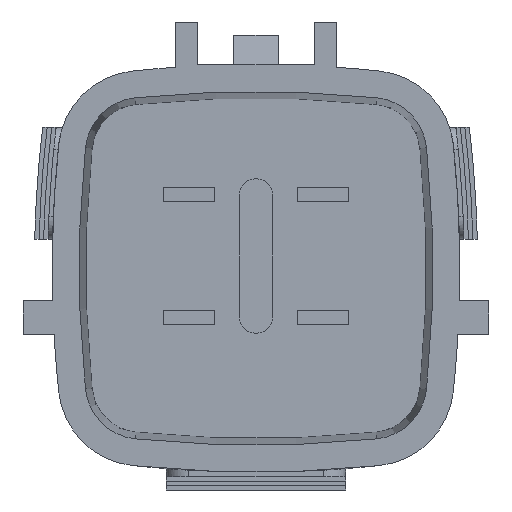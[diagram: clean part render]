
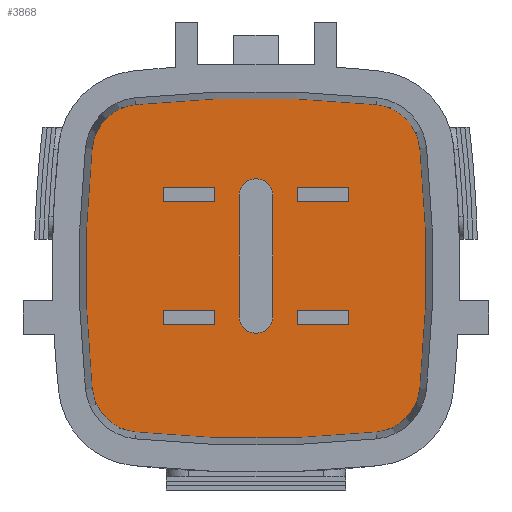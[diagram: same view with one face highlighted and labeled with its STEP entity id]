
A CAD part, left-side view. The second image highlights one B-rep face of the part: STEP entity #3868.
In plain terms, the highlighted planar face has unit normal (-1, 0, 0).
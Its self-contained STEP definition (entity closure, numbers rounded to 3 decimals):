
#3017=AXIS2_PLACEMENT_3D('Circle Axis2P3D',#3015,#3016,$) ;
#3048=AXIS2_PLACEMENT_3D('Circle Axis2P3D',#3046,#3047,$) ;
#3072=AXIS2_PLACEMENT_3D('Circle Axis2P3D',#3070,#3071,$) ;
#3096=AXIS2_PLACEMENT_3D('Circle Axis2P3D',#3094,#3095,$) ;
#3120=AXIS2_PLACEMENT_3D('Circle Axis2P3D',#3118,#3119,$) ;
#3144=AXIS2_PLACEMENT_3D('Circle Axis2P3D',#3142,#3143,$) ;
#3168=AXIS2_PLACEMENT_3D('Circle Axis2P3D',#3166,#3167,$) ;
#3192=AXIS2_PLACEMENT_3D('Circle Axis2P3D',#3190,#3191,$) ;
#3686=AXIS2_PLACEMENT_3D('Plane Axis2P3D',#3683,#3684,#3685) ;
#3700=AXIS2_PLACEMENT_3D('Circle Axis2P3D',#3698,#3699,$) ;
#3716=AXIS2_PLACEMENT_3D('Circle Axis2P3D',#3714,#3715,$) ;
#3015=CARTESIAN_POINT('Axis2P3D Location',(14.2,-5.131,5.131)) ;
#3019=CARTESIAN_POINT('Vertex',(14.2,-7.319,5.361)) ;
#3021=CARTESIAN_POINT('Vertex',(14.2,-5.361,7.319)) ;
#3046=CARTESIAN_POINT('Axis2P3D Location',(14.2,0.,-43.6)) ;
#3050=CARTESIAN_POINT('Vertex',(14.2,5.361,7.319)) ;
#3070=CARTESIAN_POINT('Axis2P3D Location',(14.2,5.131,5.131)) ;
#3074=CARTESIAN_POINT('Vertex',(14.2,7.319,5.361)) ;
#3094=CARTESIAN_POINT('Axis2P3D Location',(14.2,-43.6,0.)) ;
#3098=CARTESIAN_POINT('Vertex',(14.2,7.319,-5.361)) ;
#3118=CARTESIAN_POINT('Axis2P3D Location',(14.2,5.131,-5.131)) ;
#3122=CARTESIAN_POINT('Vertex',(14.2,5.361,-7.319)) ;
#3142=CARTESIAN_POINT('Axis2P3D Location',(14.2,0.,43.6)) ;
#3146=CARTESIAN_POINT('Vertex',(14.2,-5.361,-7.319)) ;
#3166=CARTESIAN_POINT('Axis2P3D Location',(14.2,-5.131,-5.131)) ;
#3170=CARTESIAN_POINT('Vertex',(14.2,-7.319,-5.361)) ;
#3190=CARTESIAN_POINT('Axis2P3D Location',(14.2,43.6,0.)) ;
#3683=CARTESIAN_POINT('Axis2P3D Location',(14.2,0.,0.)) ;
#3698=CARTESIAN_POINT('Axis2P3D Location',(14.2,0.,-2.15)) ;
#3702=CARTESIAN_POINT('Vertex',(14.2,-0.75,-2.15)) ;
#3704=CARTESIAN_POINT('Vertex',(14.2,0.75,-2.15)) ;
#3707=CARTESIAN_POINT('Line Origine',(14.2,0.75,0.55)) ;
#3711=CARTESIAN_POINT('Vertex',(14.2,0.75,3.25)) ;
#3714=CARTESIAN_POINT('Axis2P3D Location',(14.2,0.,3.25)) ;
#3718=CARTESIAN_POINT('Vertex',(14.2,-0.75,3.25)) ;
#3721=CARTESIAN_POINT('Line Origine',(14.2,-0.75,0.55)) ;
#3732=CARTESIAN_POINT('Line Origine',(14.2,1.85,-2.2)) ;
#3736=CARTESIAN_POINT('Vertex',(14.2,1.85,-2.52)) ;
#3738=CARTESIAN_POINT('Vertex',(14.2,1.85,-1.88)) ;
#3741=CARTESIAN_POINT('Line Origine',(14.2,3.,-2.52)) ;
#3745=CARTESIAN_POINT('Vertex',(14.2,4.15,-2.52)) ;
#3748=CARTESIAN_POINT('Line Origine',(14.2,4.15,-2.2)) ;
#3752=CARTESIAN_POINT('Vertex',(14.2,4.15,-1.88)) ;
#3755=CARTESIAN_POINT('Line Origine',(14.2,3.,-1.88)) ;
#3766=CARTESIAN_POINT('Line Origine',(14.2,1.85,3.3)) ;
#3770=CARTESIAN_POINT('Vertex',(14.2,1.85,2.98)) ;
#3772=CARTESIAN_POINT('Vertex',(14.2,1.85,3.62)) ;
#3775=CARTESIAN_POINT('Line Origine',(14.2,3.,2.98)) ;
#3779=CARTESIAN_POINT('Vertex',(14.2,4.15,2.98)) ;
#3782=CARTESIAN_POINT('Line Origine',(14.2,4.15,3.3)) ;
#3786=CARTESIAN_POINT('Vertex',(14.2,4.15,3.62)) ;
#3789=CARTESIAN_POINT('Line Origine',(14.2,3.,3.62)) ;
#3800=CARTESIAN_POINT('Line Origine',(14.2,-4.15,3.3)) ;
#3804=CARTESIAN_POINT('Vertex',(14.2,-4.15,2.98)) ;
#3806=CARTESIAN_POINT('Vertex',(14.2,-4.15,3.62)) ;
#3809=CARTESIAN_POINT('Line Origine',(14.2,-3.,2.98)) ;
#3813=CARTESIAN_POINT('Vertex',(14.2,-1.85,2.98)) ;
#3816=CARTESIAN_POINT('Line Origine',(14.2,-1.85,3.3)) ;
#3820=CARTESIAN_POINT('Vertex',(14.2,-1.85,3.62)) ;
#3823=CARTESIAN_POINT('Line Origine',(14.2,-3.,3.62)) ;
#3834=CARTESIAN_POINT('Line Origine',(14.2,-4.15,-2.2)) ;
#3838=CARTESIAN_POINT('Vertex',(14.2,-4.15,-2.52)) ;
#3840=CARTESIAN_POINT('Vertex',(14.2,-4.15,-1.88)) ;
#3843=CARTESIAN_POINT('Line Origine',(14.2,-3.,-2.52)) ;
#3847=CARTESIAN_POINT('Vertex',(14.2,-1.85,-2.52)) ;
#3850=CARTESIAN_POINT('Line Origine',(14.2,-1.85,-2.2)) ;
#3854=CARTESIAN_POINT('Vertex',(14.2,-1.85,-1.88)) ;
#3857=CARTESIAN_POINT('Line Origine',(14.2,-3.,-1.88)) ;
#3016=DIRECTION('Axis2P3D Direction',(-1.,0.,0.)) ;
#3047=DIRECTION('Axis2P3D Direction',(-1.,0.,0.)) ;
#3071=DIRECTION('Axis2P3D Direction',(-1.,0.,0.)) ;
#3095=DIRECTION('Axis2P3D Direction',(-1.,0.,0.)) ;
#3119=DIRECTION('Axis2P3D Direction',(-1.,0.,0.)) ;
#3143=DIRECTION('Axis2P3D Direction',(-1.,0.,0.)) ;
#3167=DIRECTION('Axis2P3D Direction',(-1.,0.,0.)) ;
#3191=DIRECTION('Axis2P3D Direction',(-1.,0.,0.)) ;
#3684=DIRECTION('Axis2P3D Direction',(1.,0.,0.)) ;
#3685=DIRECTION('Axis2P3D XDirection',(0.,1.,0.)) ;
#3699=DIRECTION('Axis2P3D Direction',(1.,0.,0.)) ;
#3708=DIRECTION('Vector Direction',(0.,0.,-1.)) ;
#3715=DIRECTION('Axis2P3D Direction',(1.,0.,0.)) ;
#3722=DIRECTION('Vector Direction',(0.,0.,1.)) ;
#3733=DIRECTION('Vector Direction',(0.,0.,1.)) ;
#3742=DIRECTION('Vector Direction',(0.,1.,0.)) ;
#3749=DIRECTION('Vector Direction',(0.,0.,-1.)) ;
#3756=DIRECTION('Vector Direction',(0.,-1.,0.)) ;
#3767=DIRECTION('Vector Direction',(0.,0.,1.)) ;
#3776=DIRECTION('Vector Direction',(0.,1.,0.)) ;
#3783=DIRECTION('Vector Direction',(0.,0.,-1.)) ;
#3790=DIRECTION('Vector Direction',(0.,-1.,0.)) ;
#3801=DIRECTION('Vector Direction',(0.,0.,1.)) ;
#3810=DIRECTION('Vector Direction',(0.,1.,0.)) ;
#3817=DIRECTION('Vector Direction',(0.,0.,-1.)) ;
#3824=DIRECTION('Vector Direction',(0.,-1.,0.)) ;
#3835=DIRECTION('Vector Direction',(0.,0.,1.)) ;
#3844=DIRECTION('Vector Direction',(0.,1.,0.)) ;
#3851=DIRECTION('Vector Direction',(0.,0.,-1.)) ;
#3858=DIRECTION('Vector Direction',(0.,-1.,0.)) ;
#3709=VECTOR('Line Direction',#3708,1.) ;
#3723=VECTOR('Line Direction',#3722,1.) ;
#3734=VECTOR('Line Direction',#3733,1.) ;
#3743=VECTOR('Line Direction',#3742,1.) ;
#3750=VECTOR('Line Direction',#3749,1.) ;
#3757=VECTOR('Line Direction',#3756,1.) ;
#3768=VECTOR('Line Direction',#3767,1.) ;
#3777=VECTOR('Line Direction',#3776,1.) ;
#3784=VECTOR('Line Direction',#3783,1.) ;
#3791=VECTOR('Line Direction',#3790,1.) ;
#3802=VECTOR('Line Direction',#3801,1.) ;
#3811=VECTOR('Line Direction',#3810,1.) ;
#3818=VECTOR('Line Direction',#3817,1.) ;
#3825=VECTOR('Line Direction',#3824,1.) ;
#3836=VECTOR('Line Direction',#3835,1.) ;
#3845=VECTOR('Line Direction',#3844,1.) ;
#3852=VECTOR('Line Direction',#3851,1.) ;
#3859=VECTOR('Line Direction',#3858,1.) ;
#3689=ORIENTED_EDGE('',*,*,#3194,.T.) ;
#3690=ORIENTED_EDGE('',*,*,#3023,.T.) ;
#3691=ORIENTED_EDGE('',*,*,#3052,.T.) ;
#3692=ORIENTED_EDGE('',*,*,#3076,.T.) ;
#3693=ORIENTED_EDGE('',*,*,#3100,.T.) ;
#3694=ORIENTED_EDGE('',*,*,#3124,.T.) ;
#3695=ORIENTED_EDGE('',*,*,#3148,.T.) ;
#3696=ORIENTED_EDGE('',*,*,#3172,.T.) ;
#3727=ORIENTED_EDGE('',*,*,#3706,.T.) ;
#3728=ORIENTED_EDGE('',*,*,#3713,.F.) ;
#3729=ORIENTED_EDGE('',*,*,#3720,.T.) ;
#3730=ORIENTED_EDGE('',*,*,#3725,.F.) ;
#3761=ORIENTED_EDGE('',*,*,#3740,.F.) ;
#3762=ORIENTED_EDGE('',*,*,#3747,.T.) ;
#3763=ORIENTED_EDGE('',*,*,#3754,.F.) ;
#3764=ORIENTED_EDGE('',*,*,#3759,.T.) ;
#3795=ORIENTED_EDGE('',*,*,#3774,.F.) ;
#3796=ORIENTED_EDGE('',*,*,#3781,.T.) ;
#3797=ORIENTED_EDGE('',*,*,#3788,.F.) ;
#3798=ORIENTED_EDGE('',*,*,#3793,.T.) ;
#3829=ORIENTED_EDGE('',*,*,#3808,.F.) ;
#3830=ORIENTED_EDGE('',*,*,#3815,.T.) ;
#3831=ORIENTED_EDGE('',*,*,#3822,.F.) ;
#3832=ORIENTED_EDGE('',*,*,#3827,.T.) ;
#3863=ORIENTED_EDGE('',*,*,#3842,.F.) ;
#3864=ORIENTED_EDGE('',*,*,#3849,.T.) ;
#3865=ORIENTED_EDGE('',*,*,#3856,.F.) ;
#3866=ORIENTED_EDGE('',*,*,#3861,.T.) ;
#3731=FACE_BOUND('',#3726,.T.) ;
#3765=FACE_BOUND('',#3760,.T.) ;
#3799=FACE_BOUND('',#3794,.T.) ;
#3833=FACE_BOUND('',#3828,.T.) ;
#3867=FACE_BOUND('',#3862,.T.) ;
#3868=ADVANCED_FACE('\X2\FF8EFF9EFF83FF9EFF68FF70\X0\.6',(#3697,#3731,#3765,#3799,#3833,#3867),#3687,.F.) ;
#3018=CIRCLE('generated circle',#3017,2.2) ;
#3049=CIRCLE('generated circle',#3048,51.2) ;
#3073=CIRCLE('generated circle',#3072,2.2) ;
#3097=CIRCLE('generated circle',#3096,51.2) ;
#3121=CIRCLE('generated circle',#3120,2.2) ;
#3145=CIRCLE('generated circle',#3144,51.2) ;
#3169=CIRCLE('generated circle',#3168,2.2) ;
#3193=CIRCLE('generated circle',#3192,51.2) ;
#3701=CIRCLE('generated circle',#3700,0.75) ;
#3717=CIRCLE('generated circle',#3716,0.75) ;
#3023=EDGE_CURVE('',#3020,#3022,#3018,.T.) ;
#3052=EDGE_CURVE('',#3022,#3051,#3049,.T.) ;
#3076=EDGE_CURVE('',#3051,#3075,#3073,.T.) ;
#3100=EDGE_CURVE('',#3075,#3099,#3097,.T.) ;
#3124=EDGE_CURVE('',#3099,#3123,#3121,.T.) ;
#3148=EDGE_CURVE('',#3123,#3147,#3145,.T.) ;
#3172=EDGE_CURVE('',#3147,#3171,#3169,.T.) ;
#3194=EDGE_CURVE('',#3171,#3020,#3193,.T.) ;
#3706=EDGE_CURVE('',#3703,#3705,#3701,.T.) ;
#3713=EDGE_CURVE('',#3712,#3705,#3710,.T.) ;
#3720=EDGE_CURVE('',#3712,#3719,#3717,.T.) ;
#3725=EDGE_CURVE('',#3703,#3719,#3724,.T.) ;
#3740=EDGE_CURVE('',#3737,#3739,#3735,.T.) ;
#3747=EDGE_CURVE('',#3737,#3746,#3744,.T.) ;
#3754=EDGE_CURVE('',#3753,#3746,#3751,.T.) ;
#3759=EDGE_CURVE('',#3753,#3739,#3758,.T.) ;
#3774=EDGE_CURVE('',#3771,#3773,#3769,.T.) ;
#3781=EDGE_CURVE('',#3771,#3780,#3778,.T.) ;
#3788=EDGE_CURVE('',#3787,#3780,#3785,.T.) ;
#3793=EDGE_CURVE('',#3787,#3773,#3792,.T.) ;
#3808=EDGE_CURVE('',#3805,#3807,#3803,.T.) ;
#3815=EDGE_CURVE('',#3805,#3814,#3812,.T.) ;
#3822=EDGE_CURVE('',#3821,#3814,#3819,.T.) ;
#3827=EDGE_CURVE('',#3821,#3807,#3826,.T.) ;
#3842=EDGE_CURVE('',#3839,#3841,#3837,.T.) ;
#3849=EDGE_CURVE('',#3839,#3848,#3846,.T.) ;
#3856=EDGE_CURVE('',#3855,#3848,#3853,.T.) ;
#3861=EDGE_CURVE('',#3855,#3841,#3860,.T.) ;
#3688=EDGE_LOOP('',(#3689,#3690,#3691,#3692,#3693,#3694,#3695,#3696)) ;
#3726=EDGE_LOOP('',(#3727,#3728,#3729,#3730)) ;
#3760=EDGE_LOOP('',(#3761,#3762,#3763,#3764)) ;
#3794=EDGE_LOOP('',(#3795,#3796,#3797,#3798)) ;
#3828=EDGE_LOOP('',(#3829,#3830,#3831,#3832)) ;
#3862=EDGE_LOOP('',(#3863,#3864,#3865,#3866)) ;
#3697=FACE_OUTER_BOUND('',#3688,.T.) ;
#3710=LINE('Line',#3707,#3709) ;
#3724=LINE('Line',#3721,#3723) ;
#3735=LINE('Line',#3732,#3734) ;
#3744=LINE('Line',#3741,#3743) ;
#3751=LINE('Line',#3748,#3750) ;
#3758=LINE('Line',#3755,#3757) ;
#3769=LINE('Line',#3766,#3768) ;
#3778=LINE('Line',#3775,#3777) ;
#3785=LINE('Line',#3782,#3784) ;
#3792=LINE('Line',#3789,#3791) ;
#3803=LINE('Line',#3800,#3802) ;
#3812=LINE('Line',#3809,#3811) ;
#3819=LINE('Line',#3816,#3818) ;
#3826=LINE('Line',#3823,#3825) ;
#3837=LINE('Line',#3834,#3836) ;
#3846=LINE('Line',#3843,#3845) ;
#3853=LINE('Line',#3850,#3852) ;
#3860=LINE('Line',#3857,#3859) ;
#3687=PLANE('',#3686) ;
#3020=VERTEX_POINT('',#3019) ;
#3022=VERTEX_POINT('',#3021) ;
#3051=VERTEX_POINT('',#3050) ;
#3075=VERTEX_POINT('',#3074) ;
#3099=VERTEX_POINT('',#3098) ;
#3123=VERTEX_POINT('',#3122) ;
#3147=VERTEX_POINT('',#3146) ;
#3171=VERTEX_POINT('',#3170) ;
#3703=VERTEX_POINT('',#3702) ;
#3705=VERTEX_POINT('',#3704) ;
#3712=VERTEX_POINT('',#3711) ;
#3719=VERTEX_POINT('',#3718) ;
#3737=VERTEX_POINT('',#3736) ;
#3739=VERTEX_POINT('',#3738) ;
#3746=VERTEX_POINT('',#3745) ;
#3753=VERTEX_POINT('',#3752) ;
#3771=VERTEX_POINT('',#3770) ;
#3773=VERTEX_POINT('',#3772) ;
#3780=VERTEX_POINT('',#3779) ;
#3787=VERTEX_POINT('',#3786) ;
#3805=VERTEX_POINT('',#3804) ;
#3807=VERTEX_POINT('',#3806) ;
#3814=VERTEX_POINT('',#3813) ;
#3821=VERTEX_POINT('',#3820) ;
#3839=VERTEX_POINT('',#3838) ;
#3841=VERTEX_POINT('',#3840) ;
#3848=VERTEX_POINT('',#3847) ;
#3855=VERTEX_POINT('',#3854) ;
